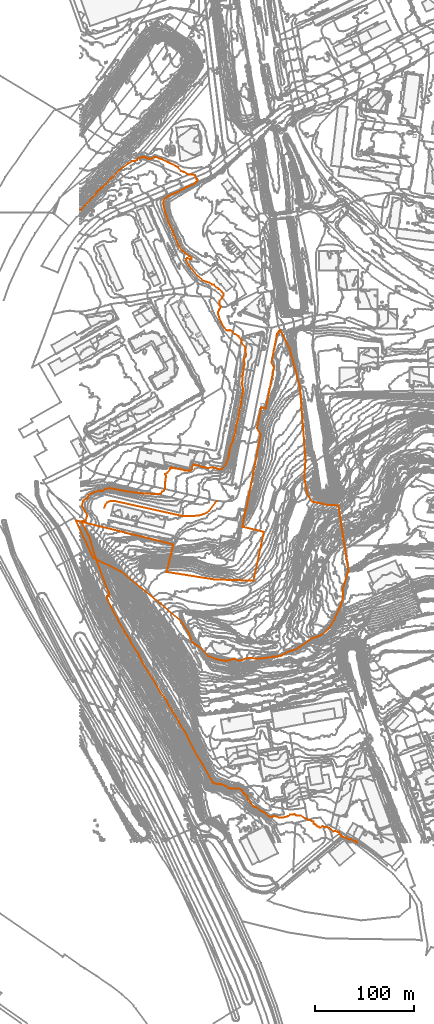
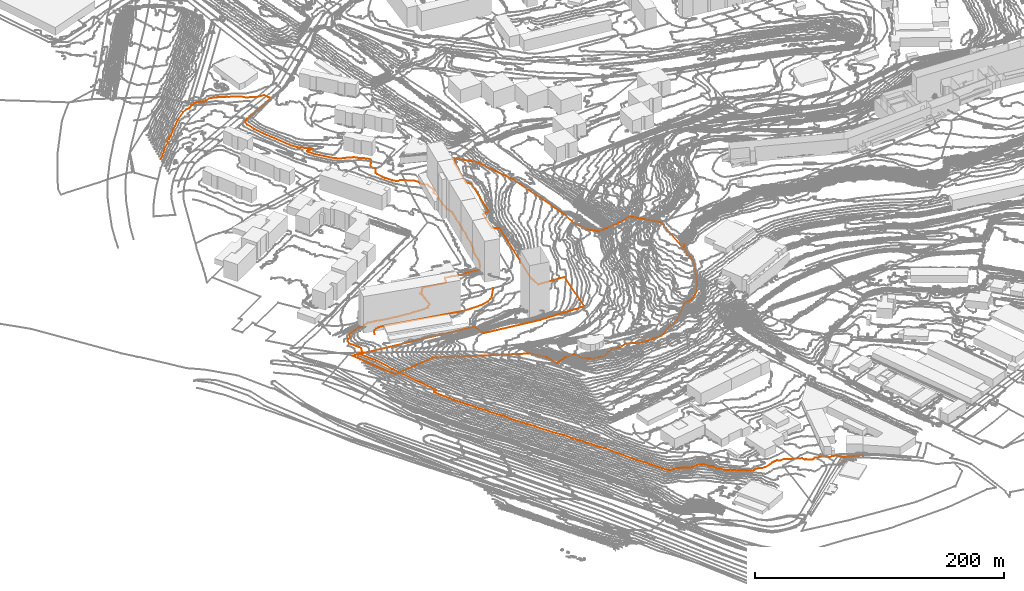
# Not in any storey, part 122 of 419: 3 proxies.
"""IFC2X3 model written with IfcOpenShell, lengths in metres."""

import ifcopenshell
import ifcopenshell.guid

model = None  # the IFC model being written
_history = None  # IfcOwnerHistory: only IFC2X3 demands one
_inside = {}  # id of a spatial element -> (the spatial element, [elements in it])
_under = {}  # id of a project, library or spatial element -> (it, [spatial elements below it])
_declared = {}  # id of a project -> (the project, [libraries it declares])
_typed = {}  # id of a type object -> (the type object, [elements of that type])
_made_of = {}  # id of a material, layer set ... -> (it, [elements and type objects made of it])


def new_model(schema):
    """Start an empty IFC model of exactly this schema.

    Asked for "IFC4X3", IfcOpenShell would pick the latest addendum, in which some entities
    have other attributes; the version numbers below select the first issue.
    IFC2X3 requires an IfcOwnerHistory on every rooted entity: one is made here for all.
    """
    global model, _history
    if schema == "IFC4X3":
        model = ifcopenshell.file(schema_version=(4, 3, 0, 0))
    else:
        model = ifcopenshell.file(schema=schema)
    _inside.clear()
    _under.clear()
    _declared.clear()
    _typed.clear()
    _made_of.clear()
    _history = None
    if model.schema == "IFC2X3":
        org = make("IfcOrganization", Name="unknown")
        user = make(
            "IfcPersonAndOrganization",
            ThePerson=make("IfcPerson", FamilyName="unknown"),
            TheOrganization=org,
        )
        app = make(
            "IfcApplication",
            ApplicationDeveloper=org,
            Version="unknown",
            ApplicationFullName="unknown",
            ApplicationIdentifier="unknown",
        )
        _history = make(
            "IfcOwnerHistory",
            OwningUser=user,
            OwningApplication=app,
            ChangeAction="ADDED",
            CreationDate=0,
        )
    return model


def make(cls, **values):
    """One entity of the class cls with the attributes given. An attribute that is None is left unset."""
    return model.create_entity(
        cls, **{name: value for name, value in values.items() if value is not None}
    )


def entity(cls, *values):
    """Any entity or typed value of the class cls, its attributes in the order of the schema. None: left unset."""
    e = model.create_entity(cls)
    for i, value in enumerate(values):
        if value is not None:
            e[i] = value
    return e


def rooted(cls, **values):
    """An entity with a GlobalId (a new one), such as an element, a storey or a relation."""
    return make(cls, GlobalId=ifcopenshell.guid.new(), OwnerHistory=_history, **values)


def si_unit(unit_type, name, prefix=None):
    """IfcSIUnit, for example si_unit("LENGTHUNIT", "METRE", prefix="MILLI")."""
    return make("IfcSIUnit", UnitType=unit_type, Prefix=prefix, Name=name)


def assignment(units):
    """IfcUnitAssignment: the units of a project."""
    return None if units is None else make("IfcUnitAssignment", Units=units)


def point(xyz):
    """IfcCartesianPoint."""
    return None if xyz is None else make("IfcCartesianPoint", Coordinates=xyz)


def direction(xyz):
    """IfcDirection."""
    return None if xyz is None else make("IfcDirection", DirectionRatios=xyz)


def frame(location, z_axis=None, x_axis=None):
    """IfcAxis2Placement3D, a coordinate frame: its origin and axes. An axis left out is left unset."""
    return make(
        "IfcAxis2Placement3D",
        Location=point(location),
        Axis=direction(z_axis),
        RefDirection=direction(x_axis),
    )


def origin_with_axes():
    """The frame at (0, 0, 0) with the z axis (0, 0, 1) and the x axis (1, 0, 0) written out."""
    return frame((0.0, 0.0, 0.0), z_axis=(0.0, 0.0, 1.0), x_axis=(1.0, 0.0, 0.0))


def place(relative_to, where):
    """IfcLocalPlacement: puts the frame where relative to a parent placement (None: the world)."""
    return make(
        "IfcLocalPlacement", PlacementRelTo=relative_to, RelativePlacement=where
    )


def context(
    kind, dimensions, precision=None, world=None, true_north=None, identifier=None
):
    """IfcGeometricRepresentationContext, for example the 3D "Model" context."""
    return make(
        "IfcGeometricRepresentationContext",
        ContextIdentifier=identifier,
        ContextType=kind,
        CoordinateSpaceDimension=dimensions,
        Precision=precision,
        WorldCoordinateSystem=world,
        TrueNorth=true_north,
    )


def subcontext(parent, identifier, kind, view, scale=None):
    """IfcGeometricRepresentationSubContext, for example "Body" below "Model"."""
    return make(
        "IfcGeometricRepresentationSubContext",
        ContextIdentifier=identifier,
        ContextType=kind,
        ParentContext=parent,
        TargetScale=scale,
        TargetView=view,
    )


def project(units=None, contexts=None):
    """IfcProject with its units and contexts."""
    return rooted(
        "IfcProject",
        Name="project",
        RepresentationContexts=contexts,
        UnitsInContext=assignment(units),
    )


def shape(context_of_items, identifier, shape_type, items):
    """IfcShapeRepresentation: the items that make up one representation, for example the "Body"."""
    return make(
        "IfcShapeRepresentation",
        ContextOfItems=context_of_items,
        RepresentationIdentifier=identifier,
        RepresentationType=shape_type,
        Items=items,
    )


def made_of(thing, what):
    """Note that an element or type object is made of a material, layer set ...; save() writes the relation."""
    if what is not None:
        _made_of.setdefault(what.id(), (what, []))[1].append(thing)
    return thing


def element(
    cls,
    number,
    at=None,
    inside=None,
    cuts=None,
    type_object=None,
    material=None,
    context=None,
    identifier="Body",
    shape_type=None,
    held_by="IfcProductDefinitionShape",
    body=None,
    shapes=None,
    **own,
):
    """One element of the class cls, such as IfcWall. Its Tag is "e" and its number.

    at: its placement. inside: the storey or other place that contains it. cuts: it is an
    opening in that element (IfcRelVoidsElement). A single representation is given by context,
    identifier, shape_type and body (its items); several are given by shapes. held_by: the class
    of the entity that holds the representations. save() writes the other relations.
    """
    e = rooted(cls, Tag="e%d" % number, ObjectPlacement=at, **own)
    if body is not None:
        shapes = [shape(context, identifier, shape_type, body)]
    if shapes is not None:
        e.Representation = make(held_by, Representations=shapes)
    if inside is not None:
        _inside.setdefault(inside.id(), (inside, []))[1].append(e)
    if cuts is not None:
        rooted(
            "IfcRelVoidsElement", RelatingBuildingElement=cuts, RelatedOpeningElement=e
        )
    if type_object is not None:
        _typed.setdefault(type_object.id(), (type_object, []))[1].append(e)
    return made_of(e, material)


def aggregate(whole, parts):
    """IfcRelAggregates: a whole, such as a stair, and the parts it consists of."""
    return rooted("IfcRelAggregates", RelatingObject=whole, RelatedObjects=parts)


def save(model, path):
    """Write the relations noted so far, then the file.

    IfcRelAggregates (storeys below a building ...), IfcRelContainedInSpatialStructure (elements
    in a storey), IfcRelDefinesByType, IfcRelAssociatesMaterial and IfcRelDeclares: one each for
    every whole, place, type object, material and project.
    """
    for whole, parts in _under.values():
        aggregate(whole, parts)
    for where, things in _inside.values():
        rooted(
            "IfcRelContainedInSpatialStructure",
            RelatedElements=things,
            RelatingStructure=where,
        )
    for kind, things in _typed.values():
        rooted("IfcRelDefinesByType", RelatedObjects=things, RelatingType=kind)
    for what, things in _made_of.values():
        rooted("IfcRelAssociatesMaterial", RelatedObjects=things, RelatingMaterial=what)
    for by, libraries in _declared.values():
        rooted("IfcRelDeclares", RelatingContext=by, RelatedDefinitions=libraries)
    model.write(path)


model = new_model("IFC2X3")

# Units and contexts
model_context = context("Model", 3, precision=1e-05, world=origin_with_axes())
body_context = subcontext(model_context, "Body", "Model", "MODEL_VIEW")
ifc_project = project(units=[si_unit("AREAUNIT", "SQUARE_METRE"), si_unit("LENGTHUNIT", "METRE")], contexts=[model_context])

# Proxies
proxy_1_placement = place(None, frame((23.8920204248, 337.5976909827, 19.6), z_axis=(0.0, 0.0, 1.0), x_axis=(1.0, 0.0, 0.0)))
element("IfcBuildingElementProxy", 1, at=proxy_1_placement, Name="Route 118", ObjectType="NOTDEFINED", context=body_context, shape_type="GeometricCurveSet", body=[
    entity("IfcGeometricCurveSet", [entity("IfcPolyline", [entity("IfcCartesianPoint", [0.0, 0.0, 0.0]), entity("IfcCartesianPoint", [1.2999999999, 3.2000000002, 0.0]), entity("IfcCartesianPoint", [3.0, 5.5999999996, 0.0]), entity("IfcCartesianPoint", [4.8999999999, 6.5, 0.0]), entity("IfcCartesianPoint", [7.2999999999, 7.0, 0.0]), entity("IfcCartesianPoint", [10.0, 7.0, 0.0]), entity("IfcCartesianPoint", [78.2999999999, -8.1000000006, 0.8]), entity("IfcCartesianPoint", [84.2, -8.2999999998, 0.8]), entity("IfcCartesianPoint", [90.6, -8.2000000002, 0.7]), entity("IfcCartesianPoint", [96.2, -7.6000000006, 0.6]), entity("IfcCartesianPoint", [100.7999999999, -6.2999999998, 0.6]), entity("IfcCartesianPoint", [104.2, -4.5, 0.6]), entity("IfcCartesianPoint", [106.6, -2.7000000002, 0.6]), entity("IfcCartesianPoint", [113.7, 6.8999999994, 1.2])])]),
])
proxy_2_placement = place(None, frame((-4.5379795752, 324.7476909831, 16.4855003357), z_axis=(0.0, 0.0, 1.0), x_axis=(1.0, 0.0, 0.0)))
element("IfcBuildingElementProxy", 2, at=proxy_2_placement, Name="Cadastre 383", ObjectType="NOTDEFINED", context=body_context, shape_type="GeometricCurveSet", body=[
    entity("IfcGeometricCurveSet", [entity("IfcPolyline", [entity("IfcCartesianPoint", [118.01, -123.6600000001, 26.5199317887]), entity("IfcCartesianPoint", [114.25, -114.0500000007, 27.6606586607]), entity("IfcCartesianPoint", [106.13, -101.5, 26.5549983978]), entity("IfcCartesianPoint", [45.42, -51.7000000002, 13.4898451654]), entity("IfcCartesianPoint", [17.41, -37.9600000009, -1.214088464]), entity("IfcCartesianPoint", [0.0, 0.0, 0.0]), entity("IfcCartesianPoint", [98.52, -24.29, 8.4493754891]), entity("IfcCartesianPoint", [91.77, -52.1600000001, 21.6280675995]), entity("IfcCartesianPoint", [139.87, -59.6500000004, 22.295120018]), entity("IfcCartesianPoint", [179.8100000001, -60.9700000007, 22.4727622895]), entity("IfcCartesianPoint", [190.22, -11.5200000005, 17.4682104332]), entity("IfcCartesianPoint", [168.6800000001, -6.3600000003, 14.6503189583]), entity("IfcCartesianPoint", [170.3300000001, 3.5199999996, 11.772358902]), entity("IfcCartesianPoint", [170.48, 3.5099999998, 11.8392389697]), entity("IfcCartesianPoint", [171.76, 10.4499999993, 8.9661198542]), entity("IfcCartesianPoint", [172.13, 10.3799999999, 9.153500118]), entity("IfcCartesianPoint", [187.1900000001, 87.4099999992, 6.2770761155]), entity("IfcCartesianPoint", [183.4, 93.7199999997, 4.1717993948]), entity("IfcCartesianPoint", [187.51, 114.5099999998, 3.526547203]), entity("IfcCartesianPoint", [192.27, 113.46, 5.1069519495]), entity("IfcCartesianPoint", [200.6, 155.6699999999, 3.5608939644]), entity("IfcCartesianPoint", [198.0, 160.0799999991, 3.061953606]), entity("IfcCartesianPoint", [202.92, 185.2699999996, 3.5076912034]), entity("IfcCartesianPoint", [203.01, 186.0499999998, 3.5001791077]), entity("IfcCartesianPoint", [203.14, 186.7899999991, 3.5012593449]), entity("IfcCartesianPoint", [203.3300000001, 187.5099999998, 3.4834989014]), entity("IfcCartesianPoint", [203.5600000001, 188.2199999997, 3.4934481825]), entity("IfcCartesianPoint", [203.84, 188.9099999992, 3.4744956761]), entity("IfcCartesianPoint", [204.1800000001, 189.5699999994, 3.470880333]), entity("IfcCartesianPoint", [204.55, 190.21, 3.4003798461]), entity("IfcCartesianPoint", [204.98, 190.8299999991, 3.3818998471]), entity("IfcCartesianPoint", [205.4300000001, 191.4099999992, 3.3609792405]), entity("IfcCartesianPoint", [205.9400000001, 191.96, 3.3972662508]), entity("IfcCartesianPoint", [206.48, 192.4699999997, 3.4586392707]), entity("IfcCartesianPoint", [207.0600000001, 192.9099999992, 3.4627734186]), entity("IfcCartesianPoint", [216.3100000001, 174.5199999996, 7.9388059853]), entity("IfcCartesianPoint", [226.9400000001, 134.5599999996, 11.3037156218]), entity("IfcCartesianPoint", [232.52, 61.71, 19.3160890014]), entity("IfcCartesianPoint", [231.23, 45.0899999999, 21.4713800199]), entity("IfcCartesianPoint", [234.04, 27.21, 24.9014275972]), entity("IfcCartesianPoint", [239.61, 19.0599999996, 26.2431002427]), entity("IfcCartesianPoint", [255.49, 15.71, 30.6172506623]), entity("IfcCartesianPoint", [265.9400000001, 15.3599999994, 33.7823575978]), entity("IfcCartesianPoint", [271.9, -24.9900000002, 50.2852740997]), entity("IfcCartesianPoint", [276.2100000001, -52.1000000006, 40.8853003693]), entity("IfcCartesianPoint", [275.02, -53.2200000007, 40.9133083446]), entity("IfcCartesianPoint", [274.5800000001, -54.9000000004, 40.8834995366]), entity("IfcCartesianPoint", [273.09, -60.3900000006, 49.9339848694]), entity("IfcCartesianPoint", [270.16, -68.8500000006, 45.8798487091]), entity("IfcCartesianPoint", [270.73, -71.54, 46.9992389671]), entity("IfcCartesianPoint", [270.09, -79.5, 46.9016574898]), entity("IfcCartesianPoint", [267.4500000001, -87.8300000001, 40.7533791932]), entity("IfcCartesianPoint", [266.4400000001, -89.6500000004, 42.0917098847]), entity("IfcCartesianPoint", [261.3200000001, -100.79, 41.544491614]), entity("IfcCartesianPoint", [255.37, -110.1600000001, 40.0863916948]), entity("IfcCartesianPoint", [249.9300000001, -114.75, 39.8328993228]), entity("IfcCartesianPoint", [246.16, -117.1300000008, 39.7580034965]), entity("IfcCartesianPoint", [243.37, -118.0, 39.7985593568]), entity("IfcCartesianPoint", [240.3100000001, -118.6400000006, 39.9404275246]), entity("IfcCartesianPoint", [238.48, -119.6800000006, 39.8045106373]), entity("IfcCartesianPoint", [226.88, -127.7700000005, 33.6230998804]), entity("IfcCartesianPoint", [223.26, -129.9500000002, 32.8245195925]), entity("IfcCartesianPoint", [220.98, -131.1700000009, 32.6196000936]), entity("IfcCartesianPoint", [217.3300000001, -132.0900000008, 33.1061802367]), entity("IfcCartesianPoint", [214.8200000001, -132.9500000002, 31.8906199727]), entity("IfcCartesianPoint", [212.55, -134.2600000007, 30.810965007]), entity("IfcCartesianPoint", [209.9300000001, -135.9600000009, 30.2747985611]), entity("IfcCartesianPoint", [207.24, -137.1700000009, 30.2597012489]), entity("IfcCartesianPoint", [205.0700000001, -137.4500000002, 30.205958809]), entity("IfcCartesianPoint", [200.26, -138.04, 30.7534267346]), entity("IfcCartesianPoint", [193.74, -139.0300000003, 31.1777401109]), entity("IfcCartesianPoint", [184.55, -140.04, 32.4282381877]), entity("IfcCartesianPoint", [181.55, -139.8000000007, 33.5200797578]), entity("IfcCartesianPoint", [177.51, -139.29, 34.4597277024]), entity("IfcCartesianPoint", [173.15, -139.2200000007, 35.7914112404]), entity("IfcCartesianPoint", [168.27, -141.1500000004, 36.0450200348]), entity("IfcCartesianPoint", [165.6900000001, -142.0600000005, 35.9064359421]), entity("IfcCartesianPoint", [163.98, -141.6800000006, 35.9666653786]), entity("IfcCartesianPoint", [160.0, -140.1400000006, 36.0766920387]), entity("IfcCartesianPoint", [154.76, -141.5200000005, 34.8402028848]), entity("IfcCartesianPoint", [153.36, -142.0300000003, 33.4399474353]), entity("IfcCartesianPoint", [151.9400000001, -142.1700000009, 32.8893166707]), entity("IfcCartesianPoint", [141.61, -140.5600000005, 32.5500806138]), entity("IfcCartesianPoint", [133.92, -137.1900000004, 33.9977985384]), entity("IfcCartesianPoint", [129.4300000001, -132.1200000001, 36.4017893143]), entity("IfcCartesianPoint", [123.98, -127.5, 32.6215256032]), entity("IfcCartesianPoint", [118.01, -123.6600000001, 26.5199317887])])]),
])
proxy_3_placement = place(None, frame((-0.4079795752, 639.0976898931, 17.0), z_axis=(0.0, 0.0, 1.0), x_axis=(1.0, 0.0, 0.0)))
element("IfcBuildingElementProxy", 3, at=proxy_3_placement, Name="Contour 17.0 m", ObjectType="NOTDEFINED", context=body_context, shape_type="GeometricCurveSet", body=[
    entity("IfcGeometricCurveSet", [entity("IfcPolyline", [entity("IfcCartesianPoint", [280.7173916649, -640.6999989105, 0.0]), entity("IfcCartesianPoint", [280.7173916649, -640.1999989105, 0.0]), entity("IfcCartesianPoint", [279.5, -639.3641789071, 0.0]), entity("IfcCartesianPoint", [276.5, -638.6933333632, 0.0]), entity("IfcCartesianPoint", [274.5, -637.2161282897, 0.0]), entity("IfcCartesianPoint", [272.5, -637.5734922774, 0.0]), entity("IfcCartesianPoint", [271.5312507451, -637.1999989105, 0.0]), entity("IfcCartesianPoint", [269.5, -635.6285699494, 0.0]), entity("IfcCartesianPoint", [266.3, -635.1999989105, 0.0]), entity("IfcCartesianPoint", [265.5, -634.3627887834, 0.0]), entity("IfcCartesianPoint", [264.7222269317, -634.1999989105, 0.0]), entity("IfcCartesianPoint", [264.1666666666, -633.1999989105, 0.0]), entity("IfcCartesianPoint", [263.0714285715, -632.1999989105, 0.0]), entity("IfcCartesianPoint", [262.4999000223, -630.1999989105, 0.0]), entity("IfcCartesianPoint", [261.5, -629.7000489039, 0.0]), entity("IfcCartesianPoint", [258.5, -629.0823492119, 0.0]), entity("IfcCartesianPoint", [256.3571389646, -629.1999989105, 0.0]), entity("IfcCartesianPoint", [253.5, -626.7714274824, 0.0]), entity("IfcCartesianPoint", [250.9999500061, -625.1999989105, 0.0]), entity("IfcCartesianPoint", [247.5, -624.9999989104, 0.0]), entity("IfcCartesianPoint", [245.5, -624.0333269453, 0.0]), entity("IfcCartesianPoint", [243.5, -625.2000089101, 0.0]), entity("IfcCartesianPoint", [242.5, -625.2714294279, 0.0]), entity("IfcCartesianPoint", [241.5, -624.4000027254, 0.0]), entity("IfcCartesianPoint", [240.5, -624.3428579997, 0.0]), entity("IfcCartesianPoint", [239.5, -623.2000089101, 0.0]), entity("IfcCartesianPoint", [238.5, -622.3999989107, 0.0]), entity("IfcCartesianPoint", [237.5, -622.0571378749, 0.0]), entity("IfcCartesianPoint", [236.7500059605, -621.1999989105, 0.0]), entity("IfcCartesianPoint", [236.5, -619.5333322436, 0.0]), entity("IfcCartesianPoint", [234.5, -618.644452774, 0.0]), entity("IfcCartesianPoint", [233.5, -617.7833348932, 0.0]), entity("IfcCartesianPoint", [232.5, -617.7000089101, 0.0]), entity("IfcCartesianPoint", [227.5, -615.9142768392, 0.0]), entity("IfcCartesianPoint", [223.5, -613.1411740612, 0.0]), entity("IfcCartesianPoint", [219.5, -613.1487158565, 0.0]), entity("IfcCartesianPoint", [218.5, -612.7555556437, 0.0]), entity("IfcCartesianPoint", [217.5, -611.8153869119, 0.0]), entity("IfcCartesianPoint", [215.5, -611.9777719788, 0.0]), entity("IfcCartesianPoint", [214.5, -612.3428599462, 0.0]), entity("IfcCartesianPoint", [213.5, -612.2000189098, 0.0]), entity("IfcCartesianPoint", [212.5, -612.450004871, 0.0]), entity("IfcCartesianPoint", [210.5, -613.8818174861, 0.0]), entity("IfcCartesianPoint", [204.5, -615.4051272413, 0.0]), entity("IfcCartesianPoint", [201.5, -615.3052641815, 0.0]), entity("IfcCartesianPoint", [199.0789489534, -614.1999989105, 0.0]), entity("IfcCartesianPoint", [196.5, -613.5939358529, 0.0]), entity("IfcCartesianPoint", [195.5, -614.4333318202, 0.0]), entity("IfcCartesianPoint", [194.5, -614.7079356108, 0.0]), entity("IfcCartesianPoint", [191.5, -614.2517242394, 0.0]), entity("IfcCartesianPoint", [188.5, -611.2000005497, 0.0]), entity("IfcCartesianPoint", [182.5, -607.9758623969, 0.0]), entity("IfcCartesianPoint", [178.5, -604.7416665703, 0.0]), entity("IfcCartesianPoint", [176.5, -604.3999996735, 0.0]), entity("IfcCartesianPoint", [175.5, -603.7897422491, 0.0]), entity("IfcCartesianPoint", [171.9285714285, -599.1999989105, 0.0]), entity("IfcCartesianPoint", [169.910256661, -597.1999989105, 0.0]), entity("IfcCartesianPoint", [169.4036145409, -595.1999989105, 0.0]), entity("IfcCartesianPoint", [169.5149257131, -594.1999989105, 0.0]), entity("IfcCartesianPoint", [168.98979568, -593.1999989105, 0.0]), entity("IfcCartesianPoint", [166.9999978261, -592.1999989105, 0.0]), entity("IfcCartesianPoint", [165.8731342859, -591.1999989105, 0.0]), entity("IfcCartesianPoint", [164.5219785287, -588.1999989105, 0.0]), entity("IfcCartesianPoint", [163.4999976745, -587.1999989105, 0.0]), entity("IfcCartesianPoint", [160.5, -585.8271188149, 0.0]), entity("IfcCartesianPoint", [158.5, -585.63661844, 0.0]), entity("IfcCartesianPoint", [154.5, -585.9826083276, 0.0]), entity("IfcCartesianPoint", [152.5, -585.8268646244, 0.0]), entity("IfcCartesianPoint", [150.5, -585.2136978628, 0.0]), entity("IfcCartesianPoint", [147.2187492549, -583.1999989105, 0.0]), entity("IfcCartesianPoint", [142.5, -581.2000004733, 0.0]), entity("IfcCartesianPoint", [138.5, -581.2487804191, 0.0]), entity("IfcCartesianPoint", [136.5, -580.8333324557, 0.0]), entity("IfcCartesianPoint", [135.3181822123, -580.1999989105, 0.0]), entity("IfcCartesianPoint", [134.3695661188, -579.1999989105, 0.0]), entity("IfcCartesianPoint", [132.5, -576.2909101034, 0.0]), entity("IfcCartesianPoint", [124.0714285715, -561.1999989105, 0.0]), entity("IfcCartesianPoint", [118.923728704, -553.1999989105, 0.0]), entity("IfcCartesianPoint", [106.158537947, -528.1999989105, 0.0]), entity("IfcCartesianPoint", [102.5, -522.6594575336, 0.0]), entity("IfcCartesianPoint", [99.6800003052, -517.1999989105, 0.0]), entity("IfcCartesianPoint", [97.5, -514.0181823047, 0.0]), entity("IfcCartesianPoint", [94.8650791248, -509.1999989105, 0.0]), entity("IfcCartesianPoint", [93.2894728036, -507.1999989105, 0.0]), entity("IfcCartesianPoint", [91.5, -503.8521724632, 0.0]), entity("IfcCartesianPoint", [90.0999984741, -502.1999989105, 0.0]), entity("IfcCartesianPoint", [87.3909099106, -496.1999989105, 0.0]), entity("IfcCartesianPoint", [81.5, -488.4352926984, 0.0]), entity("IfcCartesianPoint", [73.2843126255, -474.1999989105, 0.0]), entity("IfcCartesianPoint", [63.2096773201, -458.1999989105, 0.0]), entity("IfcCartesianPoint", [59.8376624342, -451.1999989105, 0.0]), entity("IfcCartesianPoint", [59.4230752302, -449.1999989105, 0.0]), entity("IfcCartesianPoint", [57.5175442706, -447.1999989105, 0.0]), entity("IfcCartesianPoint", [51.6956520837, -438.1999989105, 0.0]), entity("IfcCartesianPoint", [50.2659567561, -434.1999989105, 0.0]), entity("IfcCartesianPoint", [48.6224479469, -432.1999989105, 0.0]), entity("IfcCartesianPoint", [47.6515157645, -430.1999989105, 0.0]), entity("IfcCartesianPoint", [45.5392165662, -427.1999989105, 0.0]), entity("IfcCartesianPoint", [38.5833326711, -415.1999989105, 0.0]), entity("IfcCartesianPoint", [33.1166676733, -405.1999989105, 0.0]), entity("IfcCartesianPoint", [28.2894728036, -395.1999989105, 0.0]), entity("IfcCartesianPoint", [27.1341471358, -392.1999989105, 0.0]), entity("IfcCartesianPoint", [27.5, -390.9777719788, 0.0]), entity("IfcCartesianPoint", [29.5, -390.7999989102, 0.0]), entity("IfcCartesianPoint", [29.9999833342, -390.1999989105, 0.0]), entity("IfcCartesianPoint", [29.5625013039, -388.1999989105, 0.0]), entity("IfcCartesianPoint", [26.5, -381.2769236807, 0.0]), entity("IfcCartesianPoint", [24.5, -375.2000034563, 0.0]), entity("IfcCartesianPoint", [23.4677412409, -373.1999989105, 0.0]), entity("IfcCartesianPoint", [14.1571426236, -347.1999989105, 0.0]), entity("IfcCartesianPoint", [10.9999981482, -336.1999989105, 0.0]), entity("IfcCartesianPoint", [8.9843746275, -330.1999989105, 0.0]), entity("IfcCartesianPoint", [1.939025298, -316.1999989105, 0.0]), entity("IfcCartesianPoint", [1.8846119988, -315.1999989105, 0.0]), entity("IfcCartesianPoint", [2.5, -314.9241361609, 0.0]), entity("IfcCartesianPoint", [3.5, -315.1565195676, 0.0]), entity("IfcCartesianPoint", [4.5, -314.9499959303, 0.0]), entity("IfcCartesianPoint", [5.2058869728, -314.1999989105, 0.0]), entity("IfcCartesianPoint", [6.5, -311.3666708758, 0.0]), entity("IfcCartesianPoint", [7.1190463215, -309.1999989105, 0.0]), entity("IfcCartesianPoint", [6.6363628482, -307.1999989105, 0.0]), entity("IfcCartesianPoint", [5.2173925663, -305.1999989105, 0.0]), entity("IfcCartesianPoint", [2.0800018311, -299.1999989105, 0.0]), entity("IfcCartesianPoint", [2.8333317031, -295.1999989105, 0.0]), entity("IfcCartesianPoint", [3.3333354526, -294.1999989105, 0.0]), entity("IfcCartesianPoint", [4.5, -292.9249984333, 0.0]), entity("IfcCartesianPoint", [6.5, -292.0928569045, 0.0]), entity("IfcCartesianPoint", [7.5, -291.3621600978, 0.0]), entity("IfcCartesianPoint", [8.5, -288.5333340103, 0.0]), entity("IfcCartesianPoint", [12.5, -286.2566039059, 0.0]), entity("IfcCartesianPoint", [19.5, -283.7625004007, 0.0]), entity("IfcCartesianPoint", [21.5, -284.317644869, 0.0]), entity("IfcCartesianPoint", [22.5, -284.2588237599, 0.0]), entity("IfcCartesianPoint", [25.5, -282.6782592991, 0.0]), entity("IfcCartesianPoint", [29.5, -281.470269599, 0.0]), entity("IfcCartesianPoint", [31.5, -281.984615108, 0.0]), entity("IfcCartesianPoint", [35.5, -282.369230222, 0.0]), entity("IfcCartesianPoint", [40.5, -283.6374990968, 0.0]), entity("IfcCartesianPoint", [47.5, -284.87241174, 0.0]), entity("IfcCartesianPoint", [50.5, -285.0703696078, 0.0]), entity("IfcCartesianPoint", [53.5, -285.8727263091, 0.0]), entity("IfcCartesianPoint", [61.5, -286.461905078, 0.0]), entity("IfcCartesianPoint", [63.5, -286.9999989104, 0.0]), entity("IfcCartesianPoint", [68.5, -286.9619028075, 0.0]), entity("IfcCartesianPoint", [73.5, -287.4972971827, 0.0]), entity("IfcCartesianPoint", [81.9, -287.1999989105, 0.0]), entity("IfcCartesianPoint", [83.1, -285.1999989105, 0.0]), entity("IfcCartesianPoint", [85.0999923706, -284.1999989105, 0.0]), entity("IfcCartesianPoint", [85.9166640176, -281.1999989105, 0.0]), entity("IfcCartesianPoint", [85.9444538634, -278.1999989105, 0.0]), entity("IfcCartesianPoint", [86.2499960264, -275.1999989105, 0.0]), entity("IfcCartesianPoint", [86.6818213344, -274.1999989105, 0.0]), entity("IfcCartesianPoint", [86.3749970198, -273.1999989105, 0.0]), entity("IfcCartesianPoint", [86.8636426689, -270.1999989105, 0.0]), entity("IfcCartesianPoint", [86.8749970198, -269.1999989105, 0.0]), entity("IfcCartesianPoint", [86.1666596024, -267.1999989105, 0.0]), entity("IfcCartesianPoint", [88.5, -265.8666655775, 0.0]), entity("IfcCartesianPoint", [90.9999875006, -262.1999989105, 0.0]), entity("IfcCartesianPoint", [91.5, -261.6285703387, 0.0]), entity("IfcCartesianPoint", [92.4999666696, -261.1999989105, 0.0]), entity("IfcCartesianPoint", [92.3333280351, -260.1999989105, 0.0]), entity("IfcCartesianPoint", [93.5, -261.1178078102, 0.0]), entity("IfcCartesianPoint", [95.5, -261.147824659, 0.0]), entity("IfcCartesianPoint", [96.5, -261.8301350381, 0.0]), entity("IfcCartesianPoint", [100.5, -262.0799991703, 0.0]), entity("IfcCartesianPoint", [102.5, -262.8369849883, 0.0]), entity("IfcCartesianPoint", [105.5, -263.0231871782, 0.0]), entity("IfcCartesianPoint", [106.5, -263.8249990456, 0.0]), entity("IfcCartesianPoint", [108.5, -263.7511348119, 0.0]), entity("IfcCartesianPoint", [110.5, -264.0848476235, 0.0]), entity("IfcCartesianPoint", [111.5, -263.8685381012, 0.0]), entity("IfcCartesianPoint", [113.2385159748, -262.1999989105, 0.0]), entity("IfcCartesianPoint", [113.3118080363, -260.1999989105, 0.0]), entity("IfcCartesianPoint", [114.5, -257.7701743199, 0.0]), entity("IfcCartesianPoint", [117.5, -258.5953476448, 0.0]), entity("IfcCartesianPoint", [120.5, -258.817224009, 0.0]), entity("IfcCartesianPoint", [122.5, -259.8941164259, 0.0]), entity("IfcCartesianPoint", [124.5, -260.3111106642, 0.0]), entity("IfcCartesianPoint", [125.5, -260.109998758, 0.0]), entity("IfcCartesianPoint", [127.5, -260.6805191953, 0.0]), entity("IfcCartesianPoint", [128.5, -261.2793628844, 0.0]), entity("IfcCartesianPoint", [129.5, -261.2666670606, 0.0]), entity("IfcCartesianPoint", [132.5, -260.4127651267, 0.0]), entity("IfcCartesianPoint", [134.5, -260.7714268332, 0.0]), entity("IfcCartesianPoint", [135.5, -261.3090890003, 0.0]), entity("IfcCartesianPoint", [138.5, -261.4499999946, 0.0]), entity("IfcCartesianPoint", [141.5, -262.4549000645, 0.0]), entity("IfcCartesianPoint", [143.5, -261.9254904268, 0.0]), entity("IfcCartesianPoint", [144.5, -261.1999967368, 0.0]), entity("IfcCartesianPoint", [147.5, -257.4424229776, 0.0]), entity("IfcCartesianPoint", [148.2910457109, -255.1999989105, 0.0]), entity("IfcCartesianPoint", [149.4275371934, -253.1999989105, 0.0]), entity("IfcCartesianPoint", [150.5136989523, -249.1999989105, 0.0]), entity("IfcCartesianPoint", [151.584506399, -242.1999989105, 0.0]), entity("IfcCartesianPoint", [152.8018861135, -237.1999989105, 0.0]), entity("IfcCartesianPoint", [154.2358495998, -235.1999989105, 0.0]), entity("IfcCartesianPoint", [155.0192311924, -233.1999989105, 0.0]), entity("IfcCartesianPoint", [155.5232563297, -230.1999989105, 0.0]), entity("IfcCartesianPoint", [157.2441848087, -225.1999989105, 0.0]), entity("IfcCartesianPoint", [157.8800010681, -219.1999989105, 0.0]), entity("IfcCartesianPoint", [160.1382971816, -212.1999989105, 0.0]), entity("IfcCartesianPoint", [160.4583323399, -207.1999989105, 0.0]), entity("IfcCartesianPoint", [161.5652187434, -203.1999989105, 0.0]), entity("IfcCartesianPoint", [161.8191485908, -200.1999989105, 0.0]), entity("IfcCartesianPoint", [162.8913041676, -196.1999989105, 0.0]), entity("IfcCartesianPoint", [163.4565208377, -191.1999989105, 0.0]), entity("IfcCartesianPoint", [164.1666666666, -189.1999989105, 0.0]), entity("IfcCartesianPoint", [164.5909110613, -185.1999989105, 0.0]), entity("IfcCartesianPoint", [165.1744202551, -183.1999989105, 0.0]), entity("IfcCartesianPoint", [165.2560965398, -181.1999989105, 0.0]), entity("IfcCartesianPoint", [163.8030315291, -175.1999989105, 0.0]), entity("IfcCartesianPoint", [164.5322588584, -172.1999989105, 0.0]), entity("IfcCartesianPoint", [164.3000012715, -168.1999989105, 0.0]), entity("IfcCartesianPoint", [165.0185190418, -166.1999989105, 0.0]), entity("IfcCartesianPoint", [165.75, -159.1999989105, 0.0]), entity("IfcCartesianPoint", [166.6111134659, -156.1999989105, 0.0]), entity("IfcCartesianPoint", [166.1296288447, -151.1999989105, 0.0]), entity("IfcCartesianPoint", [166.2500023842, -150.1999989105, 0.0]), entity("IfcCartesianPoint", [167.8124955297, -148.1999989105, 0.0]), entity("IfcCartesianPoint", [168.2222239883, -147.1999989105, 0.0]), entity("IfcCartesianPoint", [168.2222239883, -146.1999989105, 0.0]), entity("IfcCartesianPoint", [167.2058869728, -141.1999989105, 0.0]), entity("IfcCartesianPoint", [167.6428590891, -139.1999989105, 0.0]), entity("IfcCartesianPoint", [167.0625014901, -138.1999989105, 0.0]), entity("IfcCartesianPoint", [164.195652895, -135.1999989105, 0.0]), entity("IfcCartesianPoint", [163.3431374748, -133.1999989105, 0.0]), entity("IfcCartesianPoint", [163.5, -131.7999912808, 0.0]), entity("IfcCartesianPoint", [161.7777760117, -129.1999989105, 0.0]), entity("IfcCartesianPoint", [160.5, -127.6374974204, 0.0]), entity("IfcCartesianPoint", [156.5, -125.2000080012, 0.0]), entity("IfcCartesianPoint", [154.6333367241, -123.1999989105, 0.0]), entity("IfcCartesianPoint", [152.5, -121.8250018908, 0.0]), entity("IfcCartesianPoint", [151.5, -121.549999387, 0.0]), entity("IfcCartesianPoint", [149.5, -122.0571391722, 0.0]), entity("IfcCartesianPoint", [148.5, -121.412119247, 0.0]), entity("IfcCartesianPoint", [146.3333340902, -119.1999989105, 0.0]), entity("IfcCartesianPoint", [142.7727277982, -113.1999989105, 0.0]), entity("IfcCartesianPoint", [141.3571434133, -110.1999989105, 0.0]), entity("IfcCartesianPoint", [139.9999944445, -105.1999989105, 0.0]), entity("IfcCartesianPoint", [139.8124955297, -103.1999989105, 0.0]), entity("IfcCartesianPoint", [140.6250029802, -101.1999989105, 0.0]), entity("IfcCartesianPoint", [141.5, -100.199973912, 0.0]), entity("IfcCartesianPoint", [142.3999980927, -98.1999989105, 0.0]), entity("IfcCartesianPoint", [142.3823503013, -97.1999989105, 0.0]), entity("IfcCartesianPoint", [141.4166646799, -96.1999989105, 0.0]), entity("IfcCartesianPoint", [141.1249990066, -95.1999989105, 0.0]), entity("IfcCartesianPoint", [141.2857113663, -92.1999989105, 0.0]), entity("IfcCartesianPoint", [141.5, -91.5999989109, 0.0]), entity("IfcCartesianPoint", [143.4999800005, -89.1999989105, 0.0]), entity("IfcCartesianPoint", [144.199994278, -87.1999989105, 0.0]), entity("IfcCartesianPoint", [145.0999923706, -86.1999989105, 0.0]), entity("IfcCartesianPoint", [145.3749970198, -85.1999989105, 0.0]), entity("IfcCartesianPoint", [145.1875044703, -84.1999989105, 0.0]), entity("IfcCartesianPoint", [143.5, -82.1411740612, 0.0]), entity("IfcCartesianPoint", [140.5, -79.6137936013, 0.0]), entity("IfcCartesianPoint", [138.3260840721, -78.1999989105, 0.0]), entity("IfcCartesianPoint", [135.5, -75.3562466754, 0.0]), entity("IfcCartesianPoint", [133.8636426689, -75.1999989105, 0.0]), entity("IfcCartesianPoint", [130.5, -73.3500017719, 0.0]), entity("IfcCartesianPoint", [124.2777730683, -71.1999989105, 0.0]), entity("IfcCartesianPoint", [119.5, -66.9241361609, 0.0]), entity("IfcCartesianPoint", [110.5, -55.993103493, 0.0]), entity("IfcCartesianPoint", [107.6304338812, -51.1999989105, 0.0]), entity("IfcCartesianPoint", [107.2560965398, -50.1999989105, 0.0]), entity("IfcCartesianPoint", [107.5, -49.2909095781, 0.0]), entity("IfcCartesianPoint", [108.5, -48.5488349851, 0.0]), entity("IfcCartesianPoint", [111.5, -49.3333313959, 0.0]), entity("IfcCartesianPoint", [112.5, -49.3153860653, 0.0]), entity("IfcCartesianPoint", [112.7727320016, -49.1999989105, 0.0]), entity("IfcCartesianPoint", [112.7631557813, -48.1999989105, 0.0]), entity("IfcCartesianPoint", [110.499997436, -46.1999989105, 0.0]), entity("IfcCartesianPoint", [106.5, -43.4950810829, 0.0]), entity("IfcCartesianPoint", [103.6818166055, -41.1999989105, 0.0]), entity("IfcCartesianPoint", [100.0749994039, -36.1999989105, 0.0]), entity("IfcCartesianPoint", [93.9999979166, -21.1999989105, 0.0]), entity("IfcCartesianPoint", [89.5, -11.8363617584, 0.0]), entity("IfcCartesianPoint", [86.0918365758, -1.1999989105, 0.0]), entity("IfcCartesianPoint", [84.2317057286, 6.8000010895, 0.0]), entity("IfcCartesianPoint", [84.5731724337, 9.8000010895, 0.0]), entity("IfcCartesianPoint", [85.6000019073, 11.8000010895, 0.0]), entity("IfcCartesianPoint", [88.2735836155, 13.8000010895, 0.0]), entity("IfcCartesianPoint", [91.5, 15.6947376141, 0.0]), entity("IfcCartesianPoint", [93.5, 16.6793119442, 0.0]), entity("IfcCartesianPoint", [96.5, 17.6181825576, 0.0]), entity("IfcCartesianPoint", [105.5, 22.0475257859, 0.0]), entity("IfcCartesianPoint", [107.5, 23.3153860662, 0.0]), entity("IfcCartesianPoint", [113.2419352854, 25.8000010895, 0.0]), entity("IfcCartesianPoint", [115.0416636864, 26.8000010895, 0.0]), entity("IfcCartesianPoint", [117.653848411, 28.8000010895, 0.0]), entity("IfcCartesianPoint", [118.8333403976, 30.8000010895, 0.0]), entity("IfcCartesianPoint", [118.5, 31.5500010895, 0.0]), entity("IfcCartesianPoint", [117.9999500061, 31.8000010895, 0.0]), entity("IfcCartesianPoint", [116.9999750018, 33.8000010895, 0.0]), entity("IfcCartesianPoint", [116.6666719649, 35.8000010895, 0.0]), entity("IfcCartesianPoint", [110.5, 36.2166651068, 0.0]), entity("IfcCartesianPoint", [108.5, 36.8833357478, 0.0]), entity("IfcCartesianPoint", [105.5, 38.9052663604, 0.0]), entity("IfcCartesianPoint", [102.5, 39.6333365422, 0.0]), entity("IfcCartesianPoint", [99.0714285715, 43.8000010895, 0.0]), entity("IfcCartesianPoint", [96.5, 44.8476210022, 0.0]), entity("IfcCartesianPoint", [94.5, 46.133330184, 0.0]), entity("IfcCartesianPoint", [90.4999916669, 47.8000010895, 0.0]), entity("IfcCartesianPoint", [89.4999833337, 48.8000010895, 0.0]), entity("IfcCartesianPoint", [88.5, 48.9874995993, 0.0]), entity("IfcCartesianPoint", [82.6904796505, 51.8000010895, 0.0]), entity("IfcCartesianPoint", [80.5, 52.4046523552, 0.0]), entity("IfcCartesianPoint", [77.5, 53.7705886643, 0.0]), entity("IfcCartesianPoint", [75.7222269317, 53.8000010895, 0.0]), entity("IfcCartesianPoint", [72.5, 52.4190485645, 0.0]), entity("IfcCartesianPoint", [70.5, 52.1406599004, 0.0]), entity("IfcCartesianPoint", [68.5, 52.6026332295, 0.0]), entity("IfcCartesianPoint", [67.5, 53.3657907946, 0.0]), entity("IfcCartesianPoint", [66.5, 53.6227864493, 0.0]), entity("IfcCartesianPoint", [62.5, 54.0343757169, 0.0]), entity("IfcCartesianPoint", [60.5, 52.7687504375, 0.0]), entity("IfcCartesianPoint", [58.5, 52.2457852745, 0.0]), entity("IfcCartesianPoint", [57.5, 51.0564114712, 0.0]), entity("IfcCartesianPoint", [55.5, 49.7285710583, 0.0]), entity("IfcCartesianPoint", [52.5, 49.6918907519, 0.0]), entity("IfcCartesianPoint", [48.5, 47.3833340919, 0.0]), entity("IfcCartesianPoint", [39.5, 40.5450999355, 0.0]), entity("IfcCartesianPoint", [32.8809519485, 33.8000010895, 0.0]), entity("IfcCartesianPoint", [30.3421049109, 31.8000010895, 0.0]), entity("IfcCartesianPoint", [23.5, 23.8227288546, 0.0]), entity("IfcCartesianPoint", [21.461537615, 22.8000010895, 0.0]), entity("IfcCartesianPoint", [20.0666683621, 20.8000010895, 0.0]), entity("IfcCartesianPoint", [17.5, 19.500000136, 0.0]), entity("IfcCartesianPoint", [16.2818171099, 16.8000010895, 0.0]), entity("IfcCartesianPoint", [15.5, 15.7268286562, 0.0]), entity("IfcCartesianPoint", [11.5, 12.4326533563, 0.0]), entity("IfcCartesianPoint", [4.5, 4.1421048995, 0.0]), entity("IfcCartesianPoint", [0.5, 0.0, 0.0]), entity("IfcCartesianPoint", [0.0, 0.0, 0.0])])]),
])

save(model, "model.ifc")
